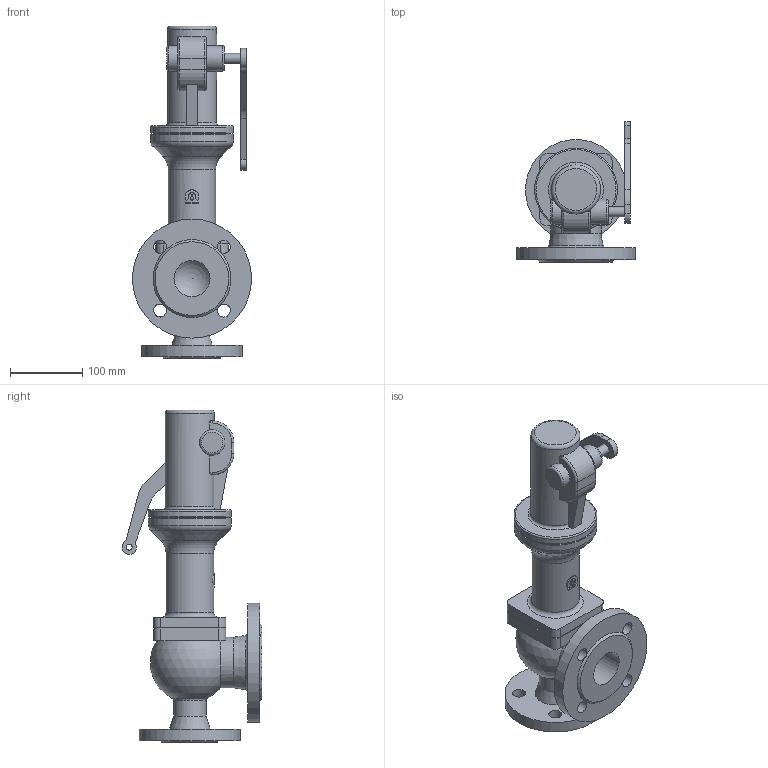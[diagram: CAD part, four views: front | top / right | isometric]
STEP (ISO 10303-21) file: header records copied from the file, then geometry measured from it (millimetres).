
FILE_DESCRIPTION(('STEP AP203'), '1');
FILE_NAME('Êëàïàí ïðåäîõðàíèòåëüíûé ïîëíîïîäüåìíûé SV2F DN32x50', '', ('UNSPECIFIED'), ('UNSPECIFIED'), 'ASCON STEP Converter 1.6', 'ASCON Math Kernel', '');
FILE_SCHEMA(('CONFIG_CONTROL_DESIGN'));
Length unit declared in the file: millimetre
Bounding box: 165 x 193.96 x 460 mm (x, y, z)
Volume: 2876300.4 mm3; surface area: 281987.4 mm2
Topology: 1 solids, 1 shells, 136 faces, 393 edges, 265 vertices
Faces by surface type: plane 60, cylinder 54, torus 14, cone 6, sphere 2
Full cylindrical faces by diameter (mm): 8 x1, 14 x1, 18 x8, 32 x1, 35 x2, 45 x1, 50 x1, 66 x1, 68 x1, 70 x1, 88 x1, 100.034 x1, 115 x2, 140 x1, 165 x1
Entity records: 6600 total; most frequent: CARTESIAN_POINT 1918, DIRECTION 773, ORIENTED_EDGE 692, EDGE_CURVE 346, AXIS2_PLACEMENT_3D 325, VERTEX_POINT 263, EDGE_LOOP 208, CIRCLE 188
